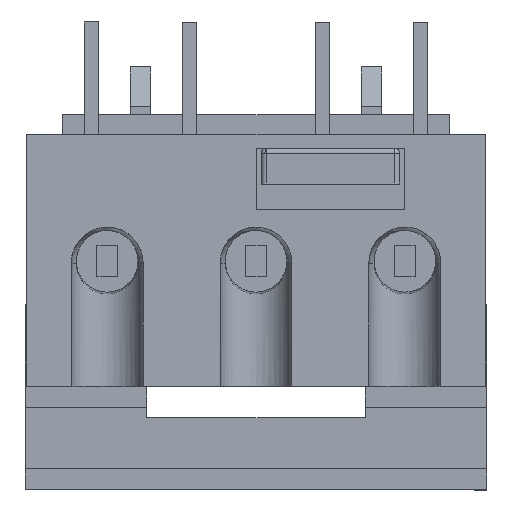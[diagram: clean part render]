
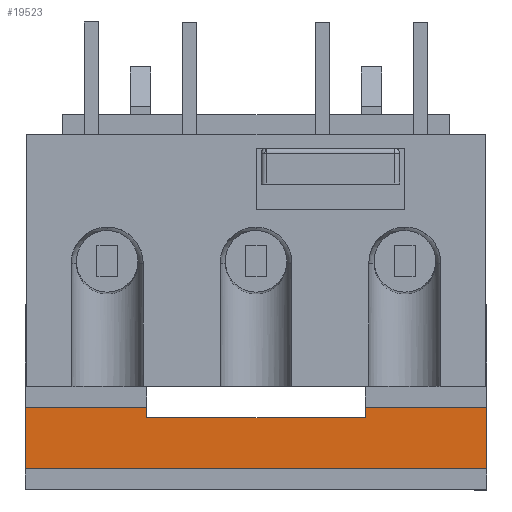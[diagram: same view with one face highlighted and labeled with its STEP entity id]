
A CAD part, top view. The second image highlights one B-rep face of the part: STEP entity #19523.
In plain terms, the highlighted planar face has unit normal (0, 0, 1) as drawn and (0, -1, 0) by its records, which use the part's own axes.
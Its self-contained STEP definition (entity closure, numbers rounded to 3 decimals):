
#19492=AXIS2_PLACEMENT_3D('Plane Axis2P3D',#19489,#19490,#19491) ;
#18464=CARTESIAN_POINT('Vertex',(10.65,5.,10.)) ;
#18478=CARTESIAN_POINT('Vertex',(22.5,5.,10.)) ;
#18481=CARTESIAN_POINT('Line Origine',(16.575,5.,10.)) ;
#18587=CARTESIAN_POINT('Vertex',(10.65,5.,11.)) ;
#18602=CARTESIAN_POINT('Line Origine',(10.65,5.,10.5)) ;
#18762=CARTESIAN_POINT('Vertex',(-10.65,5.,11.)) ;
#18772=CARTESIAN_POINT('Line Origine',(0.,5.,11.)) ;
#18875=CARTESIAN_POINT('Line Origine',(-10.65,5.,10.5)) ;
#18879=CARTESIAN_POINT('Vertex',(-10.65,5.,10.)) ;
#19470=CARTESIAN_POINT('Line Origine',(-16.575,5.,10.)) ;
#19474=CARTESIAN_POINT('Vertex',(-22.5,5.,10.)) ;
#19489=CARTESIAN_POINT('Axis2P3D Location',(0.,5.,10.)) ;
#19494=CARTESIAN_POINT('Line Origine',(22.5,5.,13.)) ;
#19498=CARTESIAN_POINT('Vertex',(22.5,5.,16.)) ;
#19501=CARTESIAN_POINT('Line Origine',(0.,5.,16.)) ;
#19505=CARTESIAN_POINT('Vertex',(-22.5,5.,16.)) ;
#19508=CARTESIAN_POINT('Line Origine',(-22.5,5.,13.)) ;
#18482=DIRECTION('Vector Direction',(1.,0.,0.)) ;
#18603=DIRECTION('Vector Direction',(0.,0.,-1.)) ;
#18773=DIRECTION('Vector Direction',(1.,0.,0.)) ;
#18876=DIRECTION('Vector Direction',(0.,0.,-1.)) ;
#19471=DIRECTION('Vector Direction',(1.,0.,0.)) ;
#19490=DIRECTION('Axis2P3D Direction',(0.,1.,0.)) ;
#19491=DIRECTION('Axis2P3D XDirection',(0.,0.,1.)) ;
#19495=DIRECTION('Vector Direction',(0.,0.,1.)) ;
#19502=DIRECTION('Vector Direction',(1.,0.,0.)) ;
#19509=DIRECTION('Vector Direction',(0.,0.,1.)) ;
#18483=VECTOR('Line Direction',#18482,1.) ;
#18604=VECTOR('Line Direction',#18603,1.) ;
#18774=VECTOR('Line Direction',#18773,1.) ;
#18877=VECTOR('Line Direction',#18876,1.) ;
#19472=VECTOR('Line Direction',#19471,1.) ;
#19496=VECTOR('Line Direction',#19495,1.) ;
#19503=VECTOR('Line Direction',#19502,1.) ;
#19510=VECTOR('Line Direction',#19509,1.) ;
#19514=ORIENTED_EDGE('',*,*,#18881,.F.) ;
#19515=ORIENTED_EDGE('',*,*,#18776,.T.) ;
#19516=ORIENTED_EDGE('',*,*,#18606,.T.) ;
#19517=ORIENTED_EDGE('',*,*,#18485,.T.) ;
#19518=ORIENTED_EDGE('',*,*,#19500,.F.) ;
#19519=ORIENTED_EDGE('',*,*,#19507,.F.) ;
#19520=ORIENTED_EDGE('',*,*,#19512,.T.) ;
#19521=ORIENTED_EDGE('',*,*,#19476,.T.) ;
#19523=ADVANCED_FACE('Hauptk\X2\00F6\X0\rper',(#19522),#19493,.F.) ;
#18485=EDGE_CURVE('',#18465,#18479,#18484,.T.) ;
#18606=EDGE_CURVE('',#18588,#18465,#18605,.T.) ;
#18776=EDGE_CURVE('',#18763,#18588,#18775,.T.) ;
#18881=EDGE_CURVE('',#18763,#18880,#18878,.T.) ;
#19476=EDGE_CURVE('',#19475,#18880,#19473,.T.) ;
#19500=EDGE_CURVE('',#19499,#18479,#19497,.F.) ;
#19507=EDGE_CURVE('',#19506,#19499,#19504,.T.) ;
#19512=EDGE_CURVE('',#19506,#19475,#19511,.F.) ;
#19513=EDGE_LOOP('',(#19514,#19515,#19516,#19517,#19518,#19519,#19520,#19521)) ;
#19522=FACE_OUTER_BOUND('',#19513,.T.) ;
#18484=LINE('Line',#18481,#18483) ;
#18605=LINE('Line',#18602,#18604) ;
#18775=LINE('Line',#18772,#18774) ;
#18878=LINE('Line',#18875,#18877) ;
#19473=LINE('Line',#19470,#19472) ;
#19497=LINE('Line',#19494,#19496) ;
#19504=LINE('Line',#19501,#19503) ;
#19511=LINE('Line',#19508,#19510) ;
#19493=PLANE('',#19492) ;
#18465=VERTEX_POINT('',#18464) ;
#18479=VERTEX_POINT('',#18478) ;
#18588=VERTEX_POINT('',#18587) ;
#18763=VERTEX_POINT('',#18762) ;
#18880=VERTEX_POINT('',#18879) ;
#19475=VERTEX_POINT('',#19474) ;
#19499=VERTEX_POINT('',#19498) ;
#19506=VERTEX_POINT('',#19505) ;
